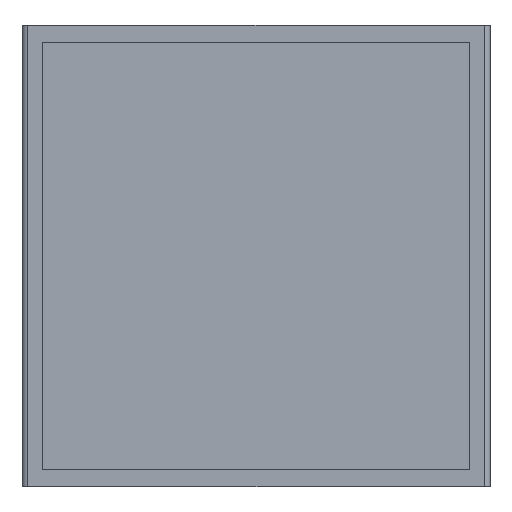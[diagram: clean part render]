
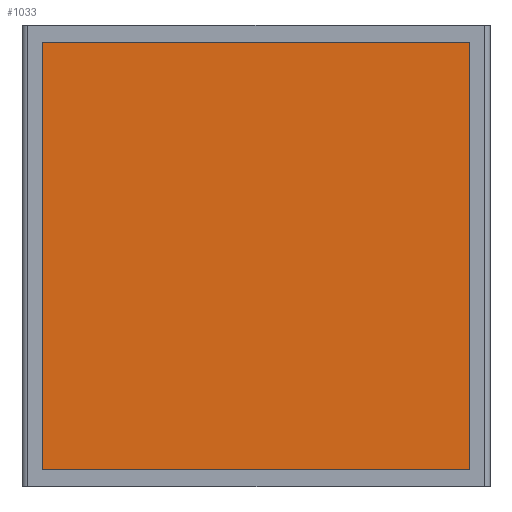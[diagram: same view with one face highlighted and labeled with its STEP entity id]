
A CAD part, front view. The second image highlights one B-rep face of the part: STEP entity #1033.
In plain terms, the highlighted planar face has unit normal (0, -1, 0).
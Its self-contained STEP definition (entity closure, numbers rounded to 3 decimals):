
#238 = EDGE_CURVE ( 'NONE', #1635, #1147, #278, .T. ) ;
#278 = LINE ( 'NONE', #1575, #1052 ) ;
#289 = CARTESIAN_POINT ( 'NONE',  ( -6.476, -1.976, 9.179 ) ) ;
#308 = DIRECTION ( 'NONE',  ( 0., 1., 0. ) ) ;
#353 = VECTOR ( 'NONE', #1204, 1000. ) ;
#451 = VERTEX_POINT ( 'NONE', #893 ) ;
#534 = FACE_OUTER_BOUND ( 'NONE', #1281, .T. ) ;
#545 = ORIENTED_EDGE ( 'NONE', *, *, #1272, .F. ) ;
#745 = CARTESIAN_POINT ( 'NONE',  ( -6.476, -1.976, 9.179 ) ) ;
#893 = CARTESIAN_POINT ( 'NONE',  ( 12.524, -1.976, -9.821 ) ) ;
#920 = LINE ( 'NONE', #2459, #353 ) ;
#1005 = EDGE_CURVE ( 'NONE', #3072, #451, #2285, .T. ) ;
#1033 = ADVANCED_FACE ( 'NONE', ( #534 ), #3061, .F. ) ;
#1052 = VECTOR ( 'NONE', #2850, 1000. ) ;
#1147 = VERTEX_POINT ( 'NONE', #289 ) ;
#1177 = VECTOR ( 'NONE', #1750, 1000. ) ;
#1204 = DIRECTION ( 'NONE',  ( -1., 0., 0. ) ) ;
#1258 = LINE ( 'NONE', #745, #1177 ) ;
#1272 = EDGE_CURVE ( 'NONE', #1147, #3072, #1258, .T. ) ;
#1281 = EDGE_LOOP ( 'NONE', ( #2780, #1967, #3218, #545 ) ) ;
#1575 = CARTESIAN_POINT ( 'NONE',  ( -6.476, -1.976, -9.821 ) ) ;
#1635 = VERTEX_POINT ( 'NONE', #2281 ) ;
#1750 = DIRECTION ( 'NONE',  ( 1., 0., 0. ) ) ;
#1809 = DIRECTION ( 'NONE',  ( 0., 0., 1. ) ) ;
#1967 = ORIENTED_EDGE ( 'NONE', *, *, #2564, .F. ) ;
#1998 = AXIS2_PLACEMENT_3D ( 'NONE', #2305, #308, #1809 ) ;
#2061 = CARTESIAN_POINT ( 'NONE',  ( 12.524, -1.976, -9.821 ) ) ;
#2281 = CARTESIAN_POINT ( 'NONE',  ( -6.476, -1.976, -9.821 ) ) ;
#2285 = LINE ( 'NONE', #2061, #2295 ) ;
#2295 = VECTOR ( 'NONE', #2824, 1000. ) ;
#2305 = CARTESIAN_POINT ( 'NONE',  ( -6.476, -1.976, 9.179 ) ) ;
#2459 = CARTESIAN_POINT ( 'NONE',  ( -6.476, -1.976, -9.821 ) ) ;
#2564 = EDGE_CURVE ( 'NONE', #451, #1635, #920, .T. ) ;
#2780 = ORIENTED_EDGE ( 'NONE', *, *, #238, .F. ) ;
#2824 = DIRECTION ( 'NONE',  ( 0., 0., -1. ) ) ;
#2850 = DIRECTION ( 'NONE',  ( 0., 0., 1. ) ) ;
#3061 = PLANE ( 'NONE',  #1998 ) ;
#3072 = VERTEX_POINT ( 'NONE', #3232 ) ;
#3218 = ORIENTED_EDGE ( 'NONE', *, *, #1005, .F. ) ;
#3232 = CARTESIAN_POINT ( 'NONE',  ( 12.524, -1.976, 9.179 ) ) ;
